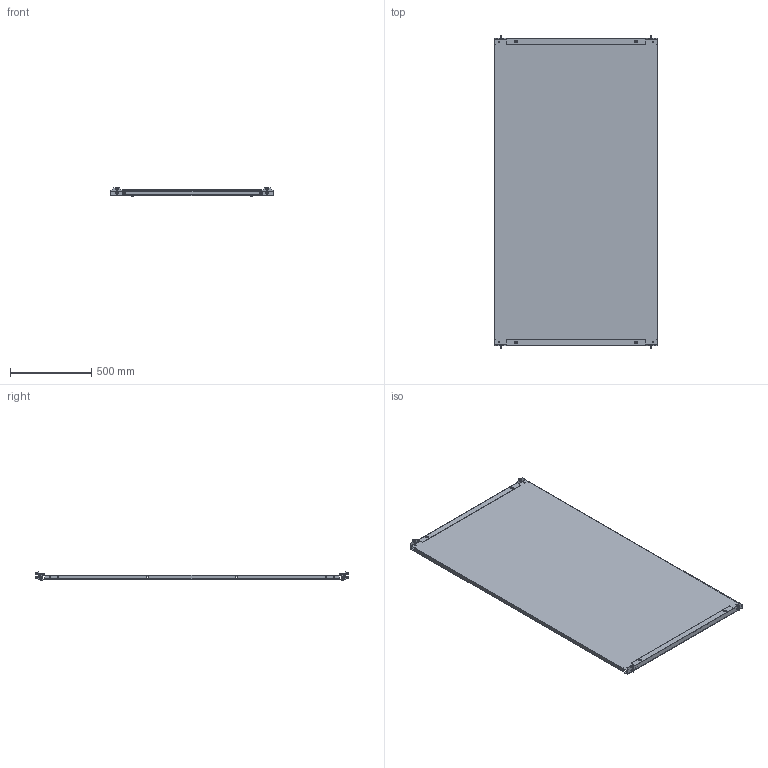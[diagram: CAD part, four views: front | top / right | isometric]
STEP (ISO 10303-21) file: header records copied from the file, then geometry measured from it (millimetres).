
FILE_DESCRIPTION(('Open CASCADE Model'),'2;1');
FILE_NAME('Open CASCADE Shape Model','2025-02-13T16:49:54',('Author'),( 'Open CASCADE'),'Open CASCADE STEP processor 7.8','Open CASCADE 7.8' ,'Unknown');
FILE_SCHEMA(('AUTOMOTIVE_DESIGN { 1 0 10303 214 1 1 1 1 }'));
Length unit declared in the file: millimetre
Products named in the file (11): Compound1; Solid1; Compound2; Solid2; Solid3; Solid4; Solid5; Solid6; Solid7; Solid8; Solid9
Assembly tree (38 placements, depth 3):
  Compound1
    Solid1
    Compound2  x2
      Solid2
      Solid3
    Solid4  x4
    Solid5  x4
    Solid6  x4
    Solid7  x4
    Solid8  x8
    Solid9  x8
Bounding box: 1000 x 1926 x 55.3 mm (x, y, z)
Volume: 5743534 mm3; surface area: 4631546.8 mm2
Topology: 39 solids, 39 shells, 2692 faces, 7206 edges, 4528 vertices
Faces by surface type: plane 1298, cylinder 730, bspline 304, cone 228, torus 128, sphere 4
Full cylindrical faces by diameter (mm): 5 x12, 6 x16, 6.5 x8, 6.8 x32, 8 x4, 8.3 x8, 8.4 x4, 9.5 x8, 10.1 x4, 10.44 x4, 10.5 x4, 11.57 x8, 12 x4, 12.65 x4, 16 x12, 16.55 x4
Entity records: 23066 total; most frequent: CARTESIAN_POINT 6118, ORIENTED_EDGE 3604, DIRECTION 3274, EDGE_CURVE 1802, VERTEX_POINT 1154, LINE 1150, VECTOR 1150, AXIS2_PLACEMENT_3D 1062
